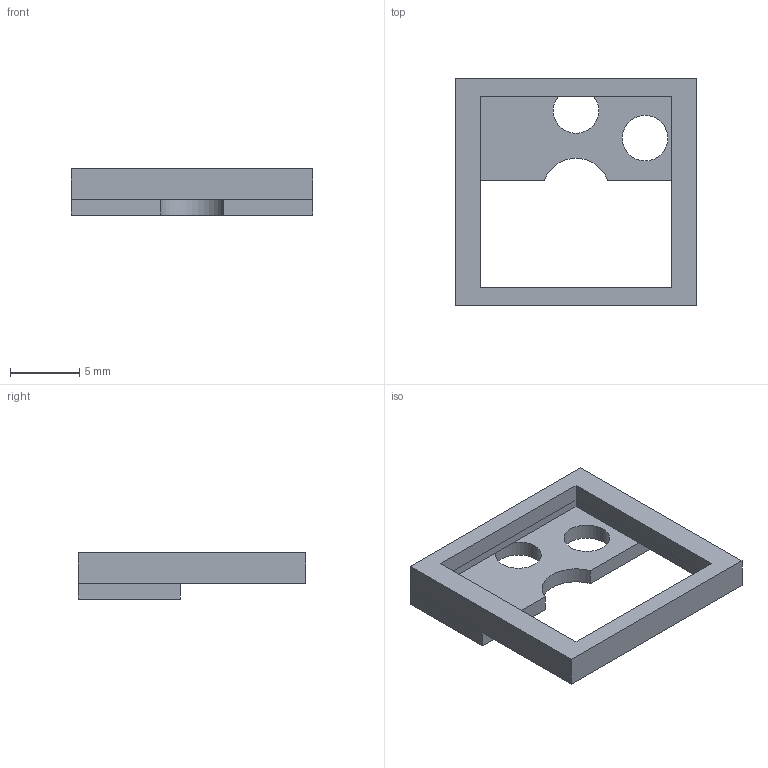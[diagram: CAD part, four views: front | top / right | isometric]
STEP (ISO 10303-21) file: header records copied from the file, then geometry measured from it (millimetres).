
FILE_DESCRIPTION(('Open CASCADE Model'),'2;1');
FILE_NAME('Open CASCADE Shape Model','2026-06-04T07:56:04',('Author'),( 'Open CASCADE'),'Open CASCADE STEP processor 7.6','Open CASCADE 7.6' ,'Unknown');
FILE_SCHEMA(('AP242_MANAGED_MODEL_BASED_3D_ENGINEERING_MIM_LF. {1 0 10303 442 1 1 4 }'));
Length unit declared in the file: millimetre
Products named in the file (3): Open CASCADE STEP translator 7.6 4; Open CASCADE STEP translator 7.6 4.1; Open CASCADE STEP translator 7.6 4.2
Assembly tree (2 placements, depth 2):
  Open CASCADE STEP translator 7.6 4
    Open CASCADE STEP translator 7.6 4.1
    Open CASCADE STEP translator 7.6 4.2
Bounding box: 17.5 x 16.5 x 3.35 mm (x, y, z)
Volume: 319.8 mm3; surface area: 764.5 mm2
Topology: 2 solids, 2 shells, 25 faces, 60 edges, 40 vertices
Faces by surface type: plane 22, cylinder 3
Full cylindrical faces by diameter (mm): 3.3 x2
Entity records: 1522 total; most frequent: CARTESIAN_POINT 282, DIRECTION 208, LINE 134, VECTOR 134, ORIENTED_EDGE 120, PCURVE 120, DEFINITIONAL_REPRESENTATION 120, EDGE_CURVE 60
